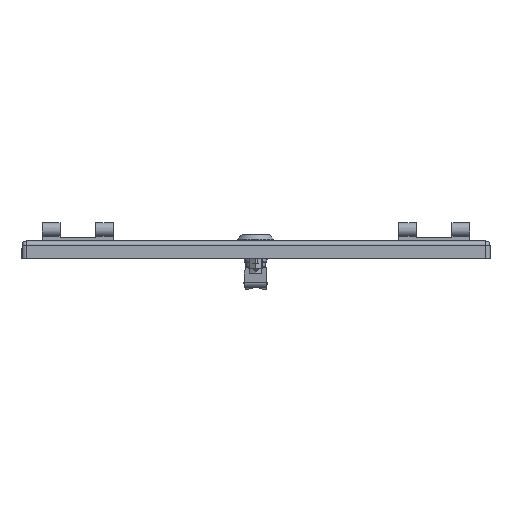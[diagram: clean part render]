
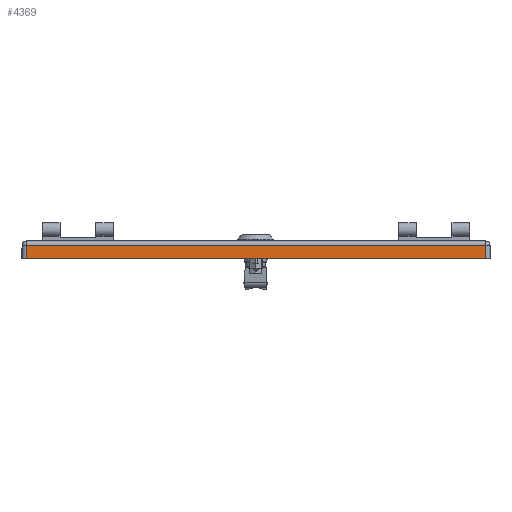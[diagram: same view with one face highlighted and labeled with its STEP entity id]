
A CAD part, left-side view. The second image highlights one B-rep face of the part: STEP entity #4369.
In plain terms, the highlighted planar face has unit normal (-1, 0, 0).
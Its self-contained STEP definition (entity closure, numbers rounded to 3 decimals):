
#429 = DIRECTION ( 'NONE',  ( 0., 0., 1. ) ) ;
#432 = DIRECTION ( 'NONE',  ( -1., 0., 0. ) ) ;
#437 = CARTESIAN_POINT ( 'NONE',  ( -292.5, 197., -15. ) ) ;
#438 = PLANE ( 'NONE',  #9171 ) ;
#1247 = EDGE_CURVE ( 'NONE', #9877, #9874, #1823, .T. ) ;
#1255 = EDGE_CURVE ( 'NONE', #9874, #9871, #1833, .T. ) ;
#1256 = EDGE_CURVE ( 'NONE', #9871, #9865, #1837, .T. ) ;
#1257 = EDGE_CURVE ( 'NONE', #9865, #9877, #1839, .T. ) ;
#1823 = LINE ( 'NONE', #10736, #1825 ) ;
#1825 = VECTOR ( 'NONE', #10741, 1000. ) ;
#1833 = LINE ( 'NONE', #10711, #1838 ) ;
#1837 = LINE ( 'NONE', #10706, #1840 ) ;
#1838 = VECTOR ( 'NONE', #10719, 1000. ) ;
#1839 = LINE ( 'NONE', #10704, #1842 ) ;
#1840 = VECTOR ( 'NONE', #10705, 1000. ) ;
#1842 = VECTOR ( 'NONE', #10703, 1000. ) ;
#2634 = FACE_OUTER_BOUND ( 'NONE', #5812, .T. ) ;
#4369 = ADVANCED_FACE ( 'NONE', ( #2634 ), #438, .T. ) ;
#4853 = ORIENTED_EDGE ( 'NONE', *, *, #1247, .T. ) ;
#4854 = ORIENTED_EDGE ( 'NONE', *, *, #1255, .T. ) ;
#4855 = ORIENTED_EDGE ( 'NONE', *, *, #1256, .T. ) ;
#4856 = ORIENTED_EDGE ( 'NONE', *, *, #1257, .T. ) ;
#5812 = EDGE_LOOP ( 'NONE', ( #4853, #4854, #4855, #4856 ) ) ;
#7405 = CARTESIAN_POINT ( 'NONE',  ( -292.5, 193.5, -3.5 ) ) ;
#7411 = CARTESIAN_POINT ( 'NONE',  ( -292.5, -193.5, -3.5 ) ) ;
#7414 = CARTESIAN_POINT ( 'NONE',  ( -292.5, -193.5, -15. ) ) ;
#7417 = CARTESIAN_POINT ( 'NONE',  ( -292.5, 193.5, -15. ) ) ;
#9171 = AXIS2_PLACEMENT_3D ( 'NONE', #437, #432, #429 ) ;
#9865 = VERTEX_POINT ( 'NONE', #7405 ) ;
#9871 = VERTEX_POINT ( 'NONE', #7411 ) ;
#9874 = VERTEX_POINT ( 'NONE', #7414 ) ;
#9877 = VERTEX_POINT ( 'NONE', #7417 ) ;
#10703 = DIRECTION ( 'NONE',  ( 0., 0., -1. ) ) ;
#10704 = CARTESIAN_POINT ( 'NONE',  ( -292.5, 193.5, -15. ) ) ;
#10705 = DIRECTION ( 'NONE',  ( 0., 1., 0. ) ) ;
#10706 = CARTESIAN_POINT ( 'NONE',  ( -292.5, 197., -3.5 ) ) ;
#10711 = CARTESIAN_POINT ( 'NONE',  ( -292.5, -193.5, -15. ) ) ;
#10719 = DIRECTION ( 'NONE',  ( 0., 0., 1. ) ) ;
#10736 = CARTESIAN_POINT ( 'NONE',  ( -292.5, 197., -15. ) ) ;
#10741 = DIRECTION ( 'NONE',  ( 0., -1., 0. ) ) ;
